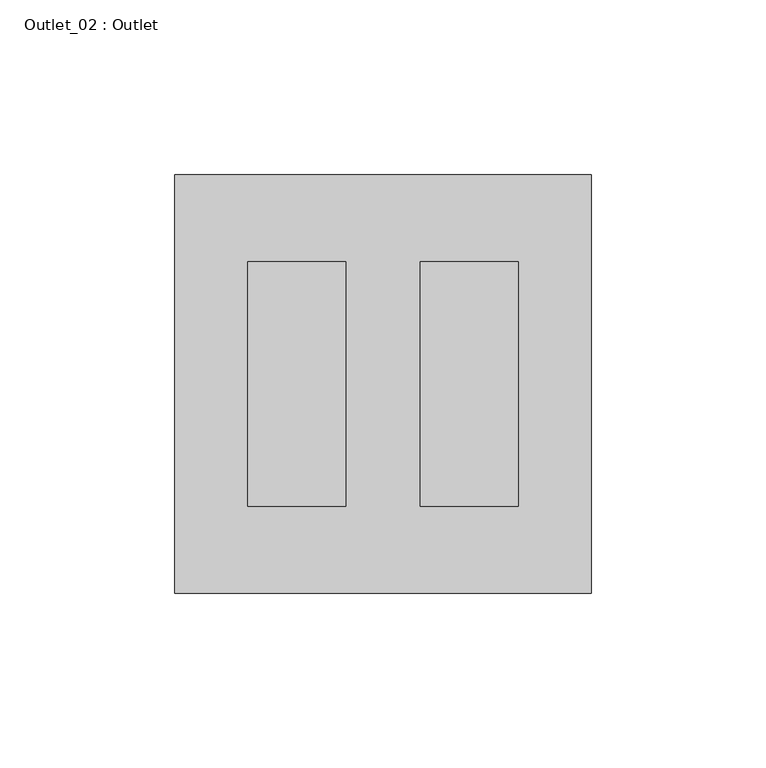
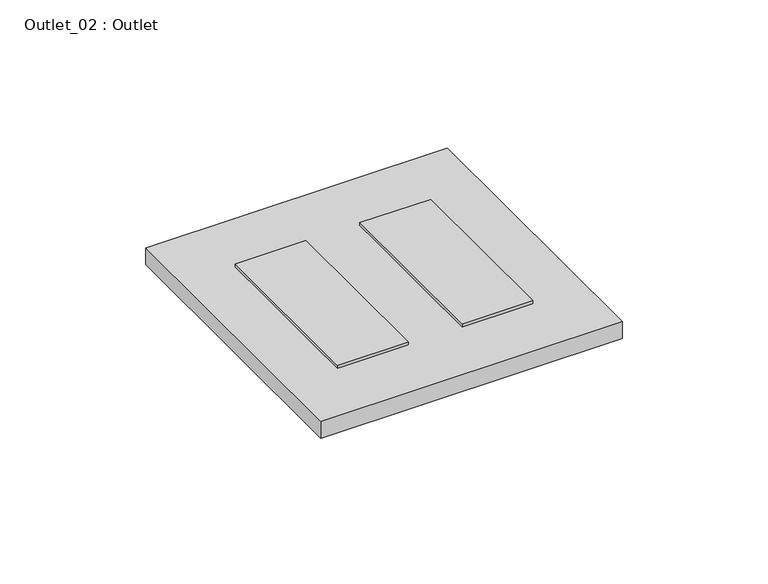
"""IFC4 building model written with IfcOpenShell, lengths in millimetres: switching device geometry, Outlet_02 : Outlet."""

from ifc_helpers import new_model, si_unit, frame, origin, origin_with_axes, place, context, project, spatial, polyline, outline, extrude, source, transform, mapped, element, save


def outlet_02_outlet_b875fcc4(model_context):
    return source(origin(), model_context, "Body", "SweptSolid", [
        extrude(outline(polyline([(38.6999979, -35.0), (10.6999979, -35.0), (10.6999979, 35.0), (38.6999979, 35.0), (38.6999979, -35.0)])), frame((0.0, 0.0, 5.6999725), z_axis=(0.0, 0.0, 1.0), x_axis=(1.0, 0.0, 0.0)), (0.0, 0.0, 1.0), 2.2999722),
        extrude(outline(polyline([(-38.6999979, 35.0), (-10.6999979, 35.0), (-10.6999979, -35.0), (-38.6999979, -35.0), (-38.6999979, 35.0)])), frame((0.0, 0.0, 5.6999725), z_axis=(0.0, 0.0, 1.0), x_axis=(1.0, 0.0, 0.0)), (0.0, 0.0, 1.0), 2.2999722),
        extrude(outline(polyline([(59.6999979, 60.0), (59.6999979, -60.0), (-59.6999979, -60.0), (-59.6999979, 60.0), (59.6999979, 60.0)])), origin_with_axes(), (0.0, 0.0, 1.0), 6.9999463),
    ])


if __name__ == "__main__":
    model = new_model("IFC4")
    model_context = context("Model", 3, world=origin())
    ifc_project = project(units=[si_unit("LENGTHUNIT", "METRE", prefix="MILLI")], contexts=[model_context])
    site = spatial("IfcSite", under=ifc_project)
    building = spatial("IfcBuilding", under=site)
    placement = place(None, origin())
    outlet_02_outlet_shape = outlet_02_outlet_b875fcc4(model_context)
    element("IfcSwitchingDevice", 1, ObjectType="Outlet_02 : Outlet", at=placement, inside=building, context=model_context, shape_type="MappedRepresentation", body=[
        mapped(outlet_02_outlet_shape, transform((0.0, 0.0, 0.0), x_axis=(1.0, 0.0, 0.0), y_axis=(0.0, 1.0, 0.0), z_axis=(0.0, 0.0, 1.0))),
    ])
    save(model, "model.ifc")
